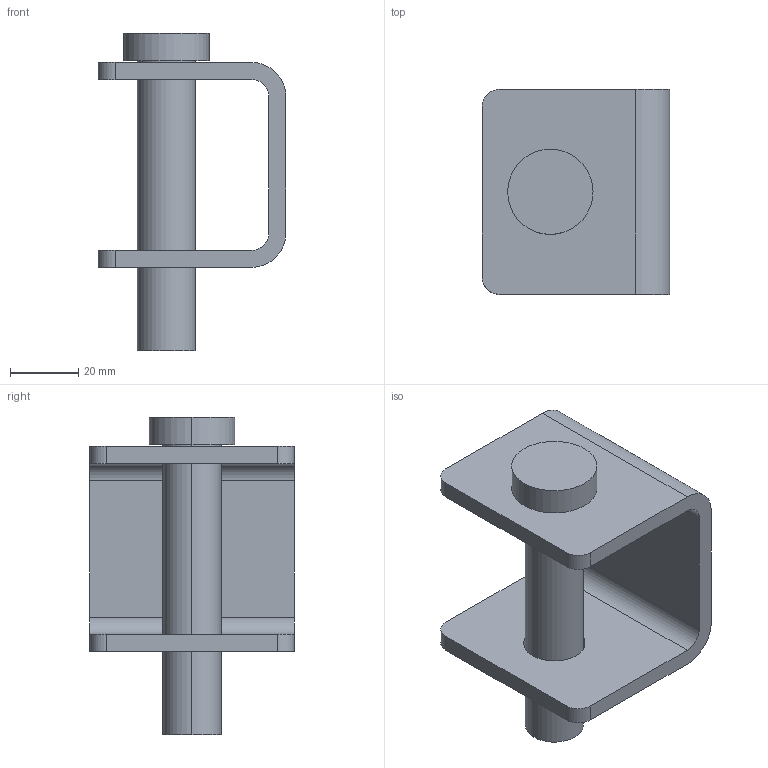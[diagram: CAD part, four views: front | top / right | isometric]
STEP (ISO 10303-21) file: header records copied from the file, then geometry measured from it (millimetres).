
FILE_DESCRIPTION (( 'STEP AP203' ), '1' );
FILE_NAME ('015.300.002.STEP', '2016-10-24T08:44:50', ( '' ), ( '' ), 'SwSTEP 2.0', 'SolidWorks 2016', '' );
FILE_SCHEMA (( 'CONFIG_CONTROL_DESIGN' ));
Length unit declared in the file: millimetre
Products named in the file (3): 015.300.002_1; 015.300.002; 015.300.002_2
Assembly tree (2 placements, depth 2):
  015.300.002
    015.300.002_2
    015.300.002_1
Bounding box: 55 x 60 x 93 mm (x, y, z)
Volume: 66636.9 mm3; surface area: 26174.5 mm2
Topology: 2 solids, 2 shells, 29 faces, 72 edges, 48 vertices
Faces by surface type: cylinder 16, plane 13
Entity records: 1191 total; most frequent: DIRECTION 172, CARTESIAN_POINT 154, ORIENTED_EDGE 144, EDGE_CURVE 72, AXIS2_PLACEMENT_3D 66, VERTEX_POINT 48, LINE 40, VECTOR 40
